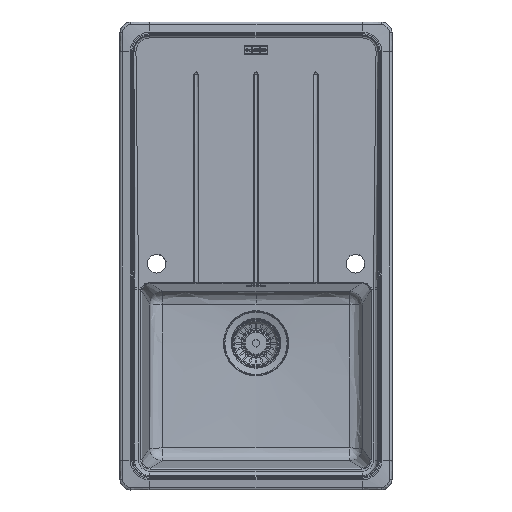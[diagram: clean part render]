
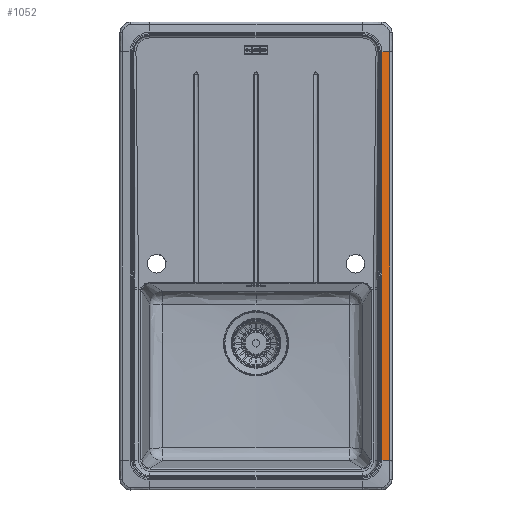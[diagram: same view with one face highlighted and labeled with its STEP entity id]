
A CAD part, top view. The second image highlights one B-rep face of the part: STEP entity #1052.
In plain terms, the highlighted planar face has unit normal (0.101, 0, 0.995).
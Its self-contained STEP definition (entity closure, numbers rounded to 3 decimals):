
#1052=ADVANCED_FACE('',(#3669),#43031,.T.);
#3669=FACE_OUTER_BOUND('',#6335,.T.);
#6335=EDGE_LOOP('',(#12821,#12822,#12823,#12824));
#12821=ORIENTED_EDGE('',*,*,#24284,.T.);
#12822=ORIENTED_EDGE('',*,*,#24246,.F.);
#12823=ORIENTED_EDGE('',*,*,#24199,.F.);
#12824=ORIENTED_EDGE('',*,*,#24247,.T.);
#24199=EDGE_CURVE('',#39515,#39514,#35242,.T.);
#24246=EDGE_CURVE('',#39514,#39539,#35264,.T.);
#24247=EDGE_CURVE('',#39515,#39541,#35265,.T.);
#24284=EDGE_CURVE('',#39541,#39539,#35292,.T.);
#35242=B_SPLINE_CURVE_WITH_KNOTS('',1,(#99637,#99638),.UNSPECIFIED.,.F.,
 .F.,(2,2),(0.,750.11),.UNSPECIFIED.);
#35264=B_SPLINE_CURVE_WITH_KNOTS('',1,(#100681,#100682),.UNSPECIFIED.,.F.,
 .F.,(2,2),(0.,14.02),.UNSPECIFIED.);
#35265=B_SPLINE_CURVE_WITH_KNOTS('',1,(#100683,#100684),.UNSPECIFIED.,.F.,
 .F.,(2,2),(-14.02,0.),.UNSPECIFIED.);
#35292=B_SPLINE_CURVE_WITH_KNOTS('',1,(#101887,#101888),.UNSPECIFIED.,.F.,
 .F.,(2,2),(-750.011,0.),.UNSPECIFIED.);
#39514=VERTEX_POINT('',#92626);
#39515=VERTEX_POINT('',#92627);
#39539=VERTEX_POINT('',#92651);
#39541=VERTEX_POINT('',#92653);
#43031=PLANE('',#46612);
#46612=AXIS2_PLACEMENT_3D('',#80322,#51550,$);
#51550=DIRECTION('',(0.101,0.,0.995));
#80322=CARTESIAN_POINT('',(229.997,450.54,0.));
#92626=CARTESIAN_POINT('',(245.462,-375.055,-1.574));
#92627=CARTESIAN_POINT('',(245.462,375.055,-1.574));
#92651=CARTESIAN_POINT('',(231.515,-375.005,-0.154));
#92653=CARTESIAN_POINT('',(231.515,375.005,-0.154));
#99637=CARTESIAN_POINT('',(245.462,375.055,-1.574));
#99638=CARTESIAN_POINT('',(245.462,-375.055,-1.574));
#100681=CARTESIAN_POINT('',(245.462,-375.055,-1.574));
#100682=CARTESIAN_POINT('',(231.515,-375.005,-0.154));
#100683=CARTESIAN_POINT('',(245.462,375.055,-1.574));
#100684=CARTESIAN_POINT('',(231.515,375.005,-0.154));
#101887=CARTESIAN_POINT('',(231.515,375.005,-0.154));
#101888=CARTESIAN_POINT('',(231.515,-375.005,-0.154));
